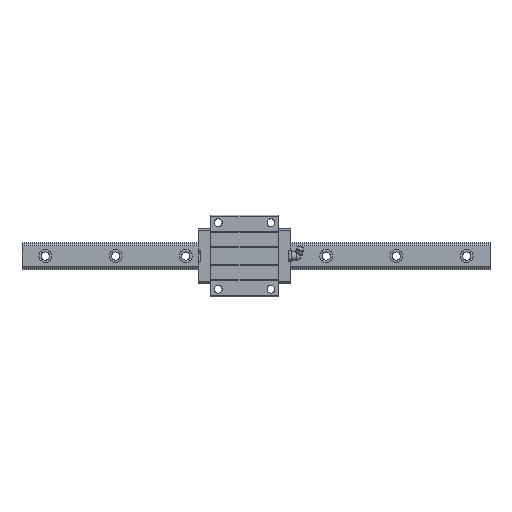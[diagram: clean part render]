
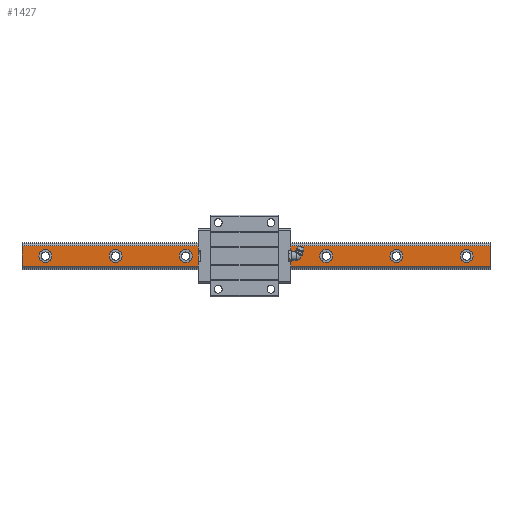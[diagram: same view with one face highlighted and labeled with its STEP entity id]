
A CAD part, top view. The second image highlights one B-rep face of the part: STEP entity #1427.
In plain terms, the highlighted planar face has unit normal (0, 0, 1).
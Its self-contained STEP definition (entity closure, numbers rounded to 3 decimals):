
#137=CARTESIAN_POINT('',(385.5,0.,22.));
#138=VERTEX_POINT('',#137);
#139=CARTESIAN_POINT('',(380.0,0.,22.));
#140=DIRECTION('',(0.0,0.0,-1.0));
#141=DIRECTION('',(1.0,0.0,0.0));
#142=AXIS2_PLACEMENT_3D('',#139,#140,#141);
#143=CIRCLE('',#142,5.5);
#144=EDGE_CURVE('',#138,#138,#143,.T.);
#247=CARTESIAN_POINT('',(325.5,0.,22.));
#248=VERTEX_POINT('',#247);
#249=CARTESIAN_POINT('',(320.0,0.,22.));
#250=DIRECTION('',(0.0,0.0,-1.0));
#251=DIRECTION('',(1.0,0.0,0.0));
#252=AXIS2_PLACEMENT_3D('',#249,#250,#251);
#253=CIRCLE('',#252,5.5);
#254=EDGE_CURVE('',#248,#248,#253,.T.);
#357=CARTESIAN_POINT('',(265.5,0.,22.));
#358=VERTEX_POINT('',#357);
#359=CARTESIAN_POINT('',(260.0,0.,22.));
#360=DIRECTION('',(0.0,0.0,-1.0));
#361=DIRECTION('',(1.0,0.0,0.0));
#362=AXIS2_PLACEMENT_3D('',#359,#360,#361);
#363=CIRCLE('',#362,5.5);
#364=EDGE_CURVE('',#358,#358,#363,.T.);
#467=CARTESIAN_POINT('',(205.5,0.,22.));
#468=VERTEX_POINT('',#467);
#469=CARTESIAN_POINT('',(200.0,0.,22.));
#470=DIRECTION('',(0.0,0.0,-1.0));
#471=DIRECTION('',(1.0,0.0,0.0));
#472=AXIS2_PLACEMENT_3D('',#469,#470,#471);
#473=CIRCLE('',#472,5.5);
#474=EDGE_CURVE('',#468,#468,#473,.T.);
#577=CARTESIAN_POINT('',(145.5,0.,22.));
#578=VERTEX_POINT('',#577);
#579=CARTESIAN_POINT('',(140.0,0.,22.));
#580=DIRECTION('',(0.0,0.0,-1.0));
#581=DIRECTION('',(1.0,0.0,0.0));
#582=AXIS2_PLACEMENT_3D('',#579,#580,#581);
#583=CIRCLE('',#582,5.5);
#584=EDGE_CURVE('',#578,#578,#583,.T.);
#687=CARTESIAN_POINT('',(85.5,0.,22.));
#688=VERTEX_POINT('',#687);
#689=CARTESIAN_POINT('',(80.0,0.,22.));
#690=DIRECTION('',(0.0,0.0,-1.0));
#691=DIRECTION('',(1.0,0.0,0.0));
#692=AXIS2_PLACEMENT_3D('',#689,#690,#691);
#693=CIRCLE('',#692,5.5);
#694=EDGE_CURVE('',#688,#688,#693,.T.);
#797=CARTESIAN_POINT('',(25.5,0.,22.));
#798=VERTEX_POINT('',#797);
#799=CARTESIAN_POINT('',(20.0,0.,22.));
#800=DIRECTION('',(0.0,0.0,-1.0));
#801=DIRECTION('',(1.0,0.0,0.0));
#802=AXIS2_PLACEMENT_3D('',#799,#800,#801);
#803=CIRCLE('',#802,5.5);
#804=EDGE_CURVE('',#798,#798,#803,.T.);
#1350=CARTESIAN_POINT('',(400.0,-8.659,22.));
#1351=VERTEX_POINT('',#1350);
#1358=CARTESIAN_POINT('',(0.0,-8.659,22.));
#1359=VERTEX_POINT('',#1358);
#1360=CARTESIAN_POINT('',(0.0,-8.659,22.));
#1361=DIRECTION('',(1.0,0.0,0.0));
#1362=VECTOR('',#1361,400.0);
#1363=LINE('',#1360,#1362);
#1364=EDGE_CURVE('',#1359,#1351,#1363,.T.);
#1376=CARTESIAN_POINT('',(0.0,-8.659,22.));
#1377=DIRECTION('',(0.0,0.0,1.0));
#1378=DIRECTION('',(1.0,0.0,0.0));
#1379=AXIS2_PLACEMENT_3D('',#1376,#1377,#1378);
#1380=PLANE('',#1379);
#1381=CARTESIAN_POINT('',(400.0,8.659,22.));
#1382=VERTEX_POINT('',#1381);
#1383=CARTESIAN_POINT('',(400.0,-8.659,22.));
#1384=DIRECTION('',(0.0,1.0,0.0));
#1385=VECTOR('',#1384,17.318);
#1386=LINE('',#1383,#1385);
#1387=EDGE_CURVE('',#1351,#1382,#1386,.T.);
#1388=ORIENTED_EDGE('',*,*,#1387,.T.);
#1389=CARTESIAN_POINT('',(0.0,8.659,22.));
#1390=VERTEX_POINT('',#1389);
#1391=CARTESIAN_POINT('',(0.0,8.659,22.));
#1392=DIRECTION('',(1.0,0.0,0.0));
#1393=VECTOR('',#1392,400.0);
#1394=LINE('',#1391,#1393);
#1395=EDGE_CURVE('',#1390,#1382,#1394,.T.);
#1396=ORIENTED_EDGE('',*,*,#1395,.F.);
#1397=CARTESIAN_POINT('',(0.0,-8.659,22.));
#1398=DIRECTION('',(0.0,1.0,0.0));
#1399=VECTOR('',#1398,17.318);
#1400=LINE('',#1397,#1399);
#1401=EDGE_CURVE('',#1359,#1390,#1400,.T.);
#1402=ORIENTED_EDGE('',*,*,#1401,.F.);
#1403=ORIENTED_EDGE('',*,*,#1364,.T.);
#1404=EDGE_LOOP('',(#1388,#1396,#1402,#1403));
#1405=FACE_OUTER_BOUND('',#1404,.T.);
#1406=ORIENTED_EDGE('',*,*,#144,.T.);
#1407=EDGE_LOOP('',(#1406));
#1408=FACE_BOUND('',#1407,.T.);
#1409=ORIENTED_EDGE('',*,*,#254,.T.);
#1410=EDGE_LOOP('',(#1409));
#1411=FACE_BOUND('',#1410,.T.);
#1412=ORIENTED_EDGE('',*,*,#364,.T.);
#1413=EDGE_LOOP('',(#1412));
#1414=FACE_BOUND('',#1413,.T.);
#1415=ORIENTED_EDGE('',*,*,#474,.T.);
#1416=EDGE_LOOP('',(#1415));
#1417=FACE_BOUND('',#1416,.T.);
#1418=ORIENTED_EDGE('',*,*,#584,.T.);
#1419=EDGE_LOOP('',(#1418));
#1420=FACE_BOUND('',#1419,.T.);
#1421=ORIENTED_EDGE('',*,*,#694,.T.);
#1422=EDGE_LOOP('',(#1421));
#1423=FACE_BOUND('',#1422,.T.);
#1424=ORIENTED_EDGE('',*,*,#804,.T.);
#1425=EDGE_LOOP('',(#1424));
#1426=FACE_BOUND('',#1425,.T.);
#1427=ADVANCED_FACE('',(#1405,#1408,#1411,#1414,#1417,#1420,#1423,#1426),#1380,.T.);
